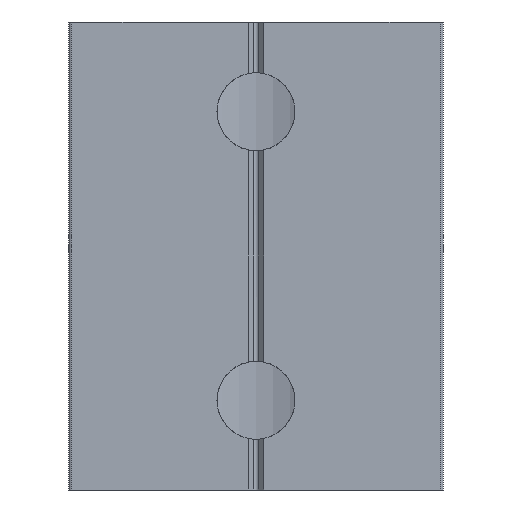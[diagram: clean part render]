
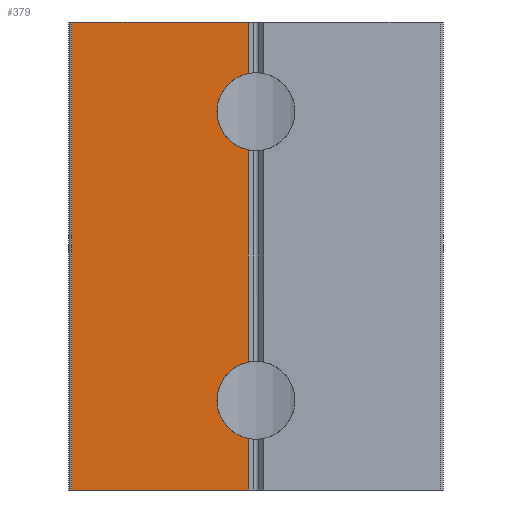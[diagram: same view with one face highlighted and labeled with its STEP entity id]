
A CAD part, front view. The second image highlights one B-rep face of the part: STEP entity #379.
In plain terms, the highlighted planar face has unit normal (0, -1, 0).
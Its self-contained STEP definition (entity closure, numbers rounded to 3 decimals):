
#4 = DIRECTION ( 'NONE',  ( 0., 0., -1. ) ) ;
#5 = EDGE_CURVE ( 'NONE', #1271, #798, #1346, .T. ) ;
#39 = CARTESIAN_POINT ( 'NONE',  ( 0., -12.9, 5.75 ) ) ;
#40 = ORIENTED_EDGE ( 'NONE', *, *, #1428, .T. ) ;
#53 = CARTESIAN_POINT ( 'NONE',  ( -11.8, -12.9, 0. ) ) ;
#64 = CARTESIAN_POINT ( 'NONE',  ( -0.5, -12.9, 30. ) ) ;
#114 = EDGE_CURVE ( 'NONE', #133, #784, #1196, .T. ) ;
#133 = VERTEX_POINT ( 'NONE', #601 ) ;
#157 = ORIENTED_EDGE ( 'NONE', *, *, #185, .F. ) ;
#165 = AXIS2_PLACEMENT_3D ( 'NONE', #1234, #1492, #1388 ) ;
#185 = EDGE_CURVE ( 'NONE', #1271, #334, #1104, .T. ) ;
#218 = VECTOR ( 'NONE', #978, 1000. ) ;
#285 = VECTOR ( 'NONE', #4, 1000. ) ;
#292 = ORIENTED_EDGE ( 'NONE', *, *, #1613, .F. ) ;
#334 = VERTEX_POINT ( 'NONE', #64 ) ;
#339 = CARTESIAN_POINT ( 'NONE',  ( -0.5, -12.9, 26.699 ) ) ;
#364 = VERTEX_POINT ( 'NONE', #339 ) ;
#366 = LINE ( 'NONE', #783, #285 ) ;
#379 = ADVANCED_FACE ( 'NONE', ( #875 ), #1401, .F. ) ;
#481 = CARTESIAN_POINT ( 'NONE',  ( -0.5, -12.9, 0. ) ) ;
#487 = EDGE_CURVE ( 'NONE', #334, #364, #1703, .T. ) ;
#488 = CARTESIAN_POINT ( 'NONE',  ( -0.5, -12.9, 30. ) ) ;
#494 = CARTESIAN_POINT ( 'NONE',  ( 0., -12.9, 24.25 ) ) ;
#545 = CARTESIAN_POINT ( 'NONE',  ( -11.8, -12.9, 30. ) ) ;
#547 = DIRECTION ( 'NONE',  ( 0., 0., -1. ) ) ;
#583 = EDGE_CURVE ( 'NONE', #364, #923, #1427, .T. ) ;
#601 = CARTESIAN_POINT ( 'NONE',  ( -0.5, -12.9, 8.199 ) ) ;
#664 = AXIS2_PLACEMENT_3D ( 'NONE', #39, #1618, #869 ) ;
#665 = AXIS2_PLACEMENT_3D ( 'NONE', #494, #1409, #547 ) ;
#712 = CARTESIAN_POINT ( 'NONE',  ( -0.5, -12.9, 3.301 ) ) ;
#783 = CARTESIAN_POINT ( 'NONE',  ( -0.5, -12.9, 30. ) ) ;
#784 = VERTEX_POINT ( 'NONE', #712 ) ;
#786 = CARTESIAN_POINT ( 'NONE',  ( -0.5, -12.9, 21.801 ) ) ;
#798 = VERTEX_POINT ( 'NONE', #53 ) ;
#849 = VECTOR ( 'NONE', #1320, 1000. ) ;
#855 = VECTOR ( 'NONE', #1361, 1000. ) ;
#858 = ORIENTED_EDGE ( 'NONE', *, *, #1496, .F. ) ;
#869 = DIRECTION ( 'NONE',  ( 0., 0., -1. ) ) ;
#875 = FACE_OUTER_BOUND ( 'NONE', #1414, .T. ) ;
#923 = VERTEX_POINT ( 'NONE', #786 ) ;
#925 = ORIENTED_EDGE ( 'NONE', *, *, #487, .F. ) ;
#978 = DIRECTION ( 'NONE',  ( 1., 0., 0. ) ) ;
#986 = VECTOR ( 'NONE', #1280, 1000. ) ;
#1056 = CARTESIAN_POINT ( 'NONE',  ( -11.8, -12.9, 0. ) ) ;
#1066 = VECTOR ( 'NONE', #1460, 1000. ) ;
#1104 = LINE ( 'NONE', #1122, #218 ) ;
#1122 = CARTESIAN_POINT ( 'NONE',  ( -11.8, -12.9, 30. ) ) ;
#1150 = VERTEX_POINT ( 'NONE', #481 ) ;
#1175 = CARTESIAN_POINT ( 'NONE',  ( -11.8, -12.9, 30. ) ) ;
#1196 = CIRCLE ( 'NONE', #664, 2.5 ) ;
#1234 = CARTESIAN_POINT ( 'NONE',  ( -11.8, -12.9, 30. ) ) ;
#1271 = VERTEX_POINT ( 'NONE', #1175 ) ;
#1280 = DIRECTION ( 'NONE',  ( 0., 0., -1. ) ) ;
#1320 = DIRECTION ( 'NONE',  ( 0., 0., -1. ) ) ;
#1326 = LINE ( 'NONE', #1056, #1066 ) ;
#1346 = LINE ( 'NONE', #545, #849 ) ;
#1361 = DIRECTION ( 'NONE',  ( 0., 0., -1. ) ) ;
#1388 = DIRECTION ( 'NONE',  ( -1., 0., 0. ) ) ;
#1389 = LINE ( 'NONE', #488, #855 ) ;
#1398 = ORIENTED_EDGE ( 'NONE', *, *, #114, .F. ) ;
#1401 = PLANE ( 'NONE',  #165 ) ;
#1409 = DIRECTION ( 'NONE',  ( 0., -1., 0. ) ) ;
#1414 = EDGE_LOOP ( 'NONE', ( #1398, #292, #1688, #925, #157, #1657, #40, #858 ) ) ;
#1427 = CIRCLE ( 'NONE', #665, 2.5 ) ;
#1428 = EDGE_CURVE ( 'NONE', #798, #1150, #1326, .T. ) ;
#1460 = DIRECTION ( 'NONE',  ( 1., 0., 0. ) ) ;
#1492 = DIRECTION ( 'NONE',  ( 0., 1., 0. ) ) ;
#1496 = EDGE_CURVE ( 'NONE', #784, #1150, #1389, .T. ) ;
#1546 = CARTESIAN_POINT ( 'NONE',  ( -0.5, -12.9, 30. ) ) ;
#1613 = EDGE_CURVE ( 'NONE', #923, #133, #366, .T. ) ;
#1618 = DIRECTION ( 'NONE',  ( 0., -1., 0. ) ) ;
#1657 = ORIENTED_EDGE ( 'NONE', *, *, #5, .T. ) ;
#1688 = ORIENTED_EDGE ( 'NONE', *, *, #583, .F. ) ;
#1703 = LINE ( 'NONE', #1546, #986 ) ;
